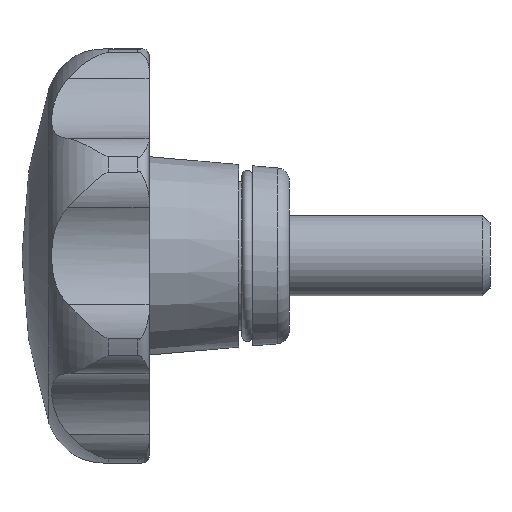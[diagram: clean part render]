
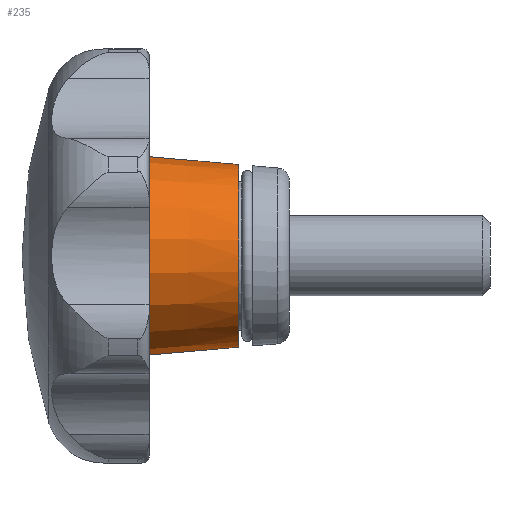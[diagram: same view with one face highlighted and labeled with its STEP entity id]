
A CAD part, left-side view. The second image highlights one B-rep face of the part: STEP entity #235.
In plain terms, the highlighted conical face has half-angle 5 degrees and reference radius 15.627 mm.
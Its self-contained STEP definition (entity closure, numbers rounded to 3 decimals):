
#235 = ADVANCED_FACE( '', ( #488, #489 ), #490, .T. );
#488 = FACE_BOUND( '', #885, .T. );
#489 = FACE_OUTER_BOUND( '', #886, .T. );
#490 = CONICAL_SURFACE( '', #887, 15.627, 0.087 );
#885 = EDGE_LOOP( '', ( #1750 ) );
#886 = EDGE_LOOP( '', ( #1751 ) );
#887 = AXIS2_PLACEMENT_3D( '', #1752, #1753, #1754 );
#1750 = ORIENTED_EDGE( '', *, *, #2762, .F. );
#1751 = ORIENTED_EDGE( '', *, *, #2761, .T. );
#1752 = CARTESIAN_POINT( '', ( 0., 30.055, 0. ) );
#1753 = DIRECTION( '', ( 0., 1., 0. ) );
#1754 = DIRECTION( '', ( 0., 0., 1. ) );
#2761 = EDGE_CURVE( '', #3390, #3390, #3391, .T. );
#2762 = EDGE_CURVE( '', #3392, #3392, #3393, .T. );
#3390 = VERTEX_POINT( '', #5300 );
#3391 = CIRCLE( '', #5301, 15.627 );
#3392 = VERTEX_POINT( '', #5302 );
#3393 = CIRCLE( '', #5303, 13.663 );
#5300 = CARTESIAN_POINT( '', ( 0., 30.055, -15.627 ) );
#5301 = AXIS2_PLACEMENT_3D( '', #6079, #6080, #6081 );
#5302 = CARTESIAN_POINT( '', ( 0., 7.6, -13.663 ) );
#5303 = AXIS2_PLACEMENT_3D( '', #6082, #6083, #6084 );
#6079 = CARTESIAN_POINT( '', ( 0., 30.055, 0. ) );
#6080 = DIRECTION( '', ( 0., -1., 0. ) );
#6081 = DIRECTION( '', ( 0., 0., -1. ) );
#6082 = CARTESIAN_POINT( '', ( 0., 7.6, 0. ) );
#6083 = DIRECTION( '', ( 0., -1., 0. ) );
#6084 = DIRECTION( '', ( 0., 0., -1. ) );
